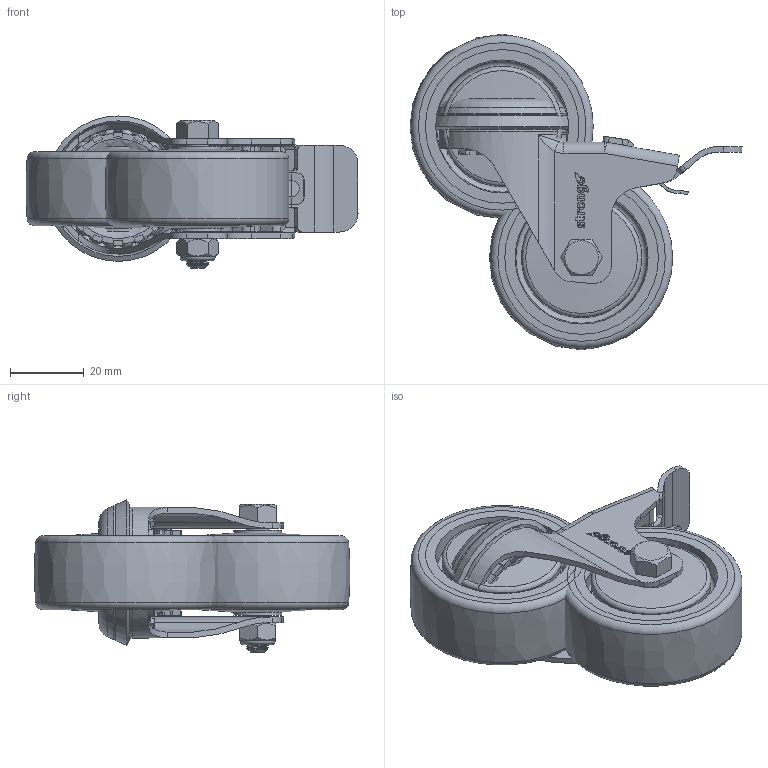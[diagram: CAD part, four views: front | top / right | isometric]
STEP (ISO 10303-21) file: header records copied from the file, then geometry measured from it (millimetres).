
FILE_DESCRIPTION(('STEP AP203'),'1');
FILE_NAME('E:/Pomoc/Strongo/344h39J050rZLC.stp',' ',(' '),(' '),'XStep 1.0',' ',' ');
FILE_SCHEMA(('CONFIG_CONTROL_DESIGN'));
Length unit declared in the file: metre
Products named in the file (3): Assembly84; Next assembly relationship; Assembly80
Bounding box: 89.9 x 85.46 x 41.19 mm (x, y, z)
Volume: 89863.4 mm3; surface area: 86949.2 mm2
Topology: 122 solids, 122 shells, 2812 faces, 7936 edges, 5228 vertices
Faces by surface type: plane 2092, cylinder 413, torus 121, sphere 104, cone 43, bspline 31, revolution 8
Full cylindrical faces by diameter (mm): 1.038 x4, 2.007 x2, 4 x2, 4.5 x2, 5 x1, 5.75 x2, 6 x17, 6.2 x4, 6.3 x4, 10 x6, 10.5 x2, 13 x4, 14 x10, 14.2 x4, 18 x2, 18.5 x2, 22.4 x4, 23 x4, 23.5 x2, 26 x4, 30.5 x4, 32.5 x6, 35.5 x2, 36.287 x2, 41.6 x4
Entity records: 47893 total; most frequent: CARTESIAN_POINT 12418, ORIENTED_EDGE 7412, DIRECTION 6923, EDGE_CURVE 3706, LINE 3075, VECTOR 3075, VERTEX_POINT 2490, AXIS2_PLACEMENT_3D 1922
